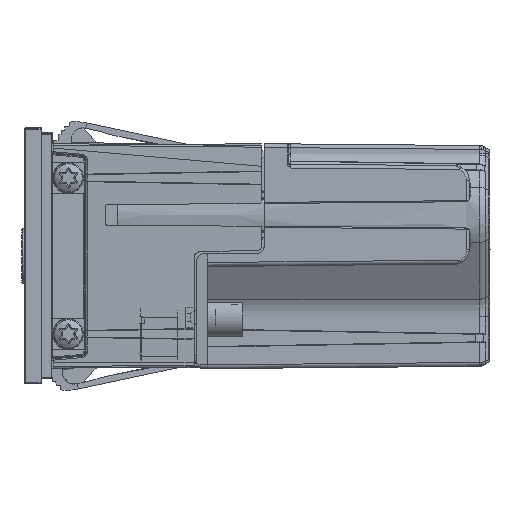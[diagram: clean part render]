
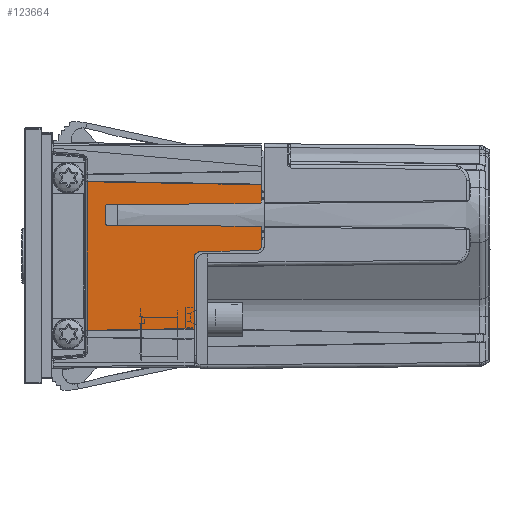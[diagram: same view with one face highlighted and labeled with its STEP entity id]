
A CAD part, left-side view. The second image highlights one B-rep face of the part: STEP entity #123664.
In plain terms, the highlighted planar face has unit normal (-1, 0.018, 0) as drawn and (1, 0.017, 0) by its records, which use the part's own axes.
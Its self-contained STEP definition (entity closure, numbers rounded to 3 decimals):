
#1764=PLANE('',#131735);
#7775=ELLIPSE('',#131736,5.731,0.1);
#7776=ELLIPSE('',#131737,5.731,0.1);
#7777=ELLIPSE('',#131738,1.25,1.25);
#7778=ELLIPSE('',#131739,0.75,0.75);
#7779=ELLIPSE('',#131740,0.25,0.25);
#7780=ELLIPSE('',#131741,0.25,0.25);
#7781=ELLIPSE('',#131742,0.25,0.25);
#7782=ELLIPSE('',#131743,0.25,0.25);
#10611=FACE_OUTER_BOUND('',#17758,.T.);
#17758=EDGE_LOOP('',(#81779,#81780,#81781,#81782,#81783,#81784,#81785,#81786,
#81787,#81788,#81789,#81790,#81791,#81792,#81793,#81794,#81795,#81796));
#24998=LINE('',#179301,#35311);
#26103=LINE('',#185235,#36416);
#26104=LINE('',#185239,#36417);
#26105=LINE('',#185241,#36418);
#26106=LINE('',#185243,#36419);
#26107=LINE('',#185247,#36420);
#26108=LINE('',#185251,#36421);
#26109=LINE('',#185255,#36422);
#26110=LINE('',#185259,#36423);
#26111=LINE('',#185264,#36424);
#35311=VECTOR('',#142892,3.204);
#36416=VECTOR('',#146359,3.253);
#36417=VECTOR('',#146362,26.083);
#36418=VECTOR('',#146363,27.146);
#36419=VECTOR('',#146364,13.78);
#36420=VECTOR('',#146367,12.907);
#36421=VECTOR('',#146370,10.338);
#36422=VECTOR('',#146373,3.416);
#36423=VECTOR('',#146376,28.01);
#36424=VECTOR('',#146381,28.01);
#49041=VERTEX_POINT('',#179298);
#49042=VERTEX_POINT('',#179300);
#50316=VERTEX_POINT('',#185233);
#50317=VERTEX_POINT('',#185234);
#50318=VERTEX_POINT('',#185236);
#50319=VERTEX_POINT('',#185238);
#50320=VERTEX_POINT('',#185240);
#50321=VERTEX_POINT('',#185242);
#50322=VERTEX_POINT('',#185244);
#50323=VERTEX_POINT('',#185246);
#50324=VERTEX_POINT('',#185248);
#50325=VERTEX_POINT('',#185250);
#50326=VERTEX_POINT('',#185252);
#50327=VERTEX_POINT('',#185254);
#50328=VERTEX_POINT('',#185256);
#50329=VERTEX_POINT('',#185258);
#50330=VERTEX_POINT('',#185261);
#50331=VERTEX_POINT('',#185263);
#60448=EDGE_CURVE('',#49042,#49041,#24998,.F.);
#62317=EDGE_CURVE('',#50316,#50317,#26103,.T.);
#62318=EDGE_CURVE('',#50317,#50318,#7775,.F.);
#62319=EDGE_CURVE('',#50318,#50319,#26104,.F.);
#62320=EDGE_CURVE('',#50319,#50320,#26105,.T.);
#62321=EDGE_CURVE('',#50320,#50321,#26106,.F.);
#62322=EDGE_CURVE('',#50321,#50322,#7776,.F.);
#62323=EDGE_CURVE('',#50322,#50323,#26107,.F.);
#62324=EDGE_CURVE('',#50323,#50324,#7777,.F.);
#62325=EDGE_CURVE('',#50324,#50325,#26108,.F.);
#62326=EDGE_CURVE('',#50325,#50326,#7778,.T.);
#62327=EDGE_CURVE('',#50326,#50327,#26109,.T.);
#62328=EDGE_CURVE('',#50327,#50328,#7779,.T.);
#62329=EDGE_CURVE('',#50328,#50329,#26110,.T.);
#62330=EDGE_CURVE('',#50329,#49042,#7780,.F.);
#62331=EDGE_CURVE('',#49041,#50330,#7781,.F.);
#62332=EDGE_CURVE('',#50330,#50331,#26111,.T.);
#62333=EDGE_CURVE('',#50331,#50316,#7782,.T.);
#81779=ORIENTED_EDGE('',*,*,#62317,.T.);
#81780=ORIENTED_EDGE('',*,*,#62318,.T.);
#81781=ORIENTED_EDGE('',*,*,#62319,.T.);
#81782=ORIENTED_EDGE('',*,*,#62320,.T.);
#81783=ORIENTED_EDGE('',*,*,#62321,.T.);
#81784=ORIENTED_EDGE('',*,*,#62322,.T.);
#81785=ORIENTED_EDGE('',*,*,#62323,.T.);
#81786=ORIENTED_EDGE('',*,*,#62324,.T.);
#81787=ORIENTED_EDGE('',*,*,#62325,.T.);
#81788=ORIENTED_EDGE('',*,*,#62326,.T.);
#81789=ORIENTED_EDGE('',*,*,#62327,.T.);
#81790=ORIENTED_EDGE('',*,*,#62328,.T.);
#81791=ORIENTED_EDGE('',*,*,#62329,.T.);
#81792=ORIENTED_EDGE('',*,*,#62330,.T.);
#81793=ORIENTED_EDGE('',*,*,#60448,.T.);
#81794=ORIENTED_EDGE('',*,*,#62331,.T.);
#81795=ORIENTED_EDGE('',*,*,#62332,.T.);
#81796=ORIENTED_EDGE('',*,*,#62333,.T.);
#123664=ADVANCED_FACE('',(#10611),#1764,.T.);
#131735=AXIS2_PLACEMENT_3D('',#185232,#146357,#146358);
#131736=AXIS2_PLACEMENT_3D('',#185237,#146360,#146361);
#131737=AXIS2_PLACEMENT_3D('',#185245,#146365,#146366);
#131738=AXIS2_PLACEMENT_3D('',#185249,#146368,#146369);
#131739=AXIS2_PLACEMENT_3D('',#185253,#146371,#146372);
#131740=AXIS2_PLACEMENT_3D('',#185257,#146374,#146375);
#131741=AXIS2_PLACEMENT_3D('',#185260,#146377,#146378);
#131742=AXIS2_PLACEMENT_3D('',#185262,#146379,#146380);
#131743=AXIS2_PLACEMENT_3D('',#185265,#146382,#146383);
#142892=DIRECTION('',(0.,0.,1.));
#146357=DIRECTION('center_axis',(1.,0.017,0.));
#146358=DIRECTION('ref_axis',(0.,0.,-1.));
#146359=DIRECTION('',(0.,0.,-1.));
#146360=DIRECTION('center_axis',(1.,0.017,0.));
#146361=DIRECTION('ref_axis',(0.017,-1.,0.017));
#146362=DIRECTION('',(0.017,-1.,0.017));
#146363=DIRECTION('',(0.,0.,1.));
#146364=DIRECTION('',(-0.017,1.,0.017));
#146365=DIRECTION('center_axis',(1.,0.017,0.));
#146366=DIRECTION('ref_axis',(0.017,-1.,-0.017));
#146367=DIRECTION('',(0.,0.,1.));
#146368=DIRECTION('center_axis',(1.,0.017,0.));
#146369=DIRECTION('ref_axis',(-0.017,1.,0.));
#146370=DIRECTION('',(-0.017,1.,0.017));
#146371=DIRECTION('center_axis',(1.,0.017,0.));
#146372=DIRECTION('ref_axis',(0.017,-1.,0.));
#146373=DIRECTION('',(0.,0.,-1.));
#146374=DIRECTION('center_axis',(1.,0.017,0.));
#146375=DIRECTION('ref_axis',(-0.017,1.,0.));
#146376=DIRECTION('',(-0.017,1.,-0.009));
#146377=DIRECTION('center_axis',(1.,0.017,0.));
#146378=DIRECTION('ref_axis',(-0.017,1.,0.));
#146379=DIRECTION('center_axis',(1.,0.017,0.));
#146380=DIRECTION('ref_axis',(0.017,-1.,0.));
#146381=DIRECTION('',(0.017,-1.,-0.009));
#146382=DIRECTION('center_axis',(1.,0.017,0.));
#146383=DIRECTION('ref_axis',(0.017,-1.,0.));
#179298=CARTESIAN_POINT('',(105.403,29.,-9.102));
#179300=CARTESIAN_POINT('',(105.403,29.,-5.898));
#179301=CARTESIAN_POINT('',(105.403,29.,-9.102));
#185232=CARTESIAN_POINT('Origin',(105.9,0.5,20.5));
#185233=CARTESIAN_POINT('',(105.9,0.5,-9.847));
#185234=CARTESIAN_POINT('',(105.9,0.5,-13.1));
#185235=CARTESIAN_POINT('',(105.9,0.5,-9.847));
#185236=CARTESIAN_POINT('',(105.8,6.229,-13.1));
#185237=CARTESIAN_POINT('Origin',(105.8,6.229,-13.2));
#185238=CARTESIAN_POINT('',(105.345,32.304,-13.555));
#185239=CARTESIAN_POINT('',(105.345,32.304,-13.555));
#185240=CARTESIAN_POINT('',(105.345,32.304,13.59));
#185241=CARTESIAN_POINT('',(105.345,32.304,-13.555));
#185242=CARTESIAN_POINT('',(105.585,18.529,13.35));
#185243=CARTESIAN_POINT('',(105.585,18.529,13.35));
#185244=CARTESIAN_POINT('',(105.685,12.8,13.35));
#185245=CARTESIAN_POINT('Origin',(105.585,18.529,13.45));
#185246=CARTESIAN_POINT('',(105.685,12.8,0.443));
#185247=CARTESIAN_POINT('',(105.685,12.8,0.443));
#185248=CARTESIAN_POINT('',(105.707,11.572,-0.807));
#185249=CARTESIAN_POINT('Origin',(105.707,11.55,0.443));
#185250=CARTESIAN_POINT('',(105.887,1.237,-0.987));
#185251=CARTESIAN_POINT('',(105.887,1.237,-0.987));
#185252=CARTESIAN_POINT('',(105.9,0.5,-1.737));
#185253=CARTESIAN_POINT('Origin',(105.887,1.25,-1.737));
#185254=CARTESIAN_POINT('',(105.9,0.5,-5.153));
#185255=CARTESIAN_POINT('',(105.9,0.5,-1.737));
#185256=CARTESIAN_POINT('',(105.896,0.748,-5.403));
#185257=CARTESIAN_POINT('Origin',(105.896,0.75,-5.153));
#185258=CARTESIAN_POINT('',(105.407,28.752,-5.648));
#185259=CARTESIAN_POINT('',(105.896,0.748,-5.403));
#185260=CARTESIAN_POINT('Origin',(105.407,28.75,-5.898));
#185261=CARTESIAN_POINT('',(105.407,28.752,-9.352));
#185262=CARTESIAN_POINT('Origin',(105.407,28.75,-9.102));
#185263=CARTESIAN_POINT('',(105.896,0.748,-9.597));
#185264=CARTESIAN_POINT('',(105.407,28.752,-9.352));
#185265=CARTESIAN_POINT('Origin',(105.896,0.75,-9.847));
